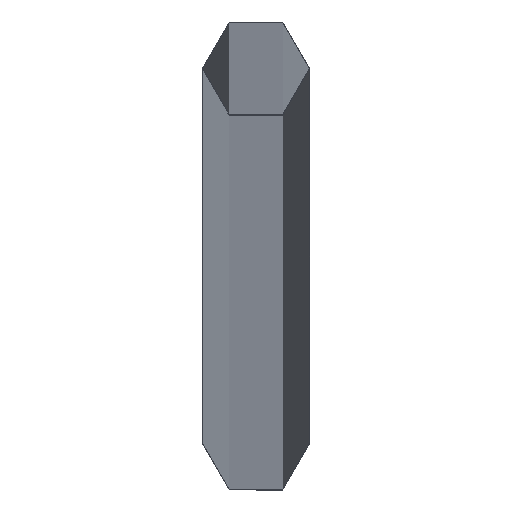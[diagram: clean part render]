
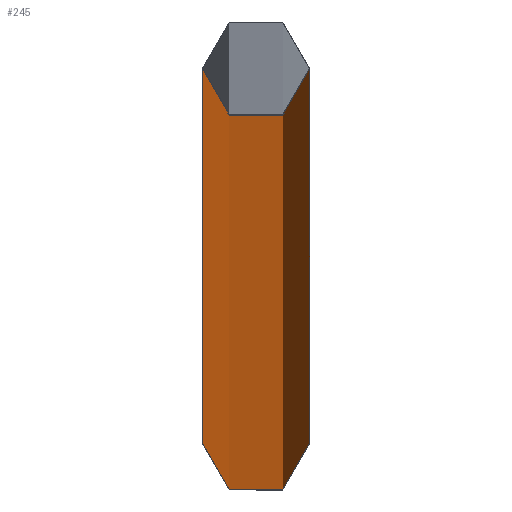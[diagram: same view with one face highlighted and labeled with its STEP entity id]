
A CAD part, top view. The second image highlights one B-rep face of the part: STEP entity #245.
In plain terms, the highlighted cylindrical face has radius 15 mm (diameter 30 mm), a partial arc.
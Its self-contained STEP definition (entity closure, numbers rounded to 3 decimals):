
#1 = EDGE_CURVE ( 'NONE', #83, #104, #195, .T. ) ;
#7 = DIRECTION ( 'NONE',  ( 0., 0., 1. ) ) ;
#17 = VERTEX_POINT ( 'NONE', #227 ) ;
#25 = CARTESIAN_POINT ( 'NONE',  ( 15., 0., 60000. ) ) ;
#28 = DIRECTION ( 'NONE',  ( 0., 0., -1. ) ) ;
#47 = CARTESIAN_POINT ( 'NONE',  ( -15., 0., 60000. ) ) ;
#49 = DIRECTION ( 'NONE',  ( -1., 0., 0. ) ) ;
#51 = DIRECTION ( 'NONE',  ( 1., 0., 0. ) ) ;
#53 = LINE ( 'NONE', #47, #80 ) ;
#64 = ORIENTED_EDGE ( 'NONE', *, *, #171, .T. ) ;
#66 = CARTESIAN_POINT ( 'NONE',  ( 0., 0., 60000. ) ) ;
#80 = VECTOR ( 'NONE', #183, 1000. ) ;
#83 = VERTEX_POINT ( 'NONE', #159 ) ;
#94 = EDGE_CURVE ( 'NONE', #104, #204, #236, .T. ) ;
#98 = DIRECTION ( 'NONE',  ( 0., 0., -1. ) ) ;
#101 = ORIENTED_EDGE ( 'NONE', *, *, #135, .T. ) ;
#102 = DIRECTION ( 'NONE',  ( 1., 0., 0. ) ) ;
#104 = VERTEX_POINT ( 'NONE', #223 ) ;
#113 = ORIENTED_EDGE ( 'NONE', *, *, #94, .F. ) ;
#124 = AXIS2_PLACEMENT_3D ( 'NONE', #160, #7, #102 ) ;
#135 = EDGE_CURVE ( 'NONE', #17, #204, #224, .T. ) ;
#136 = CYLINDRICAL_SURFACE ( 'NONE', #216, 15. ) ;
#153 = EDGE_LOOP ( 'NONE', ( #113, #219, #64, #101 ) ) ;
#154 = AXIS2_PLACEMENT_3D ( 'NONE', #233, #185, #51 ) ;
#159 = CARTESIAN_POINT ( 'NONE',  ( -15., 0., 60000. ) ) ;
#160 = CARTESIAN_POINT ( 'NONE',  ( 0., 0., 60000. ) ) ;
#171 = EDGE_CURVE ( 'NONE', #83, #17, #53, .T. ) ;
#172 = VECTOR ( 'NONE', #98, 1000. ) ;
#176 = FACE_OUTER_BOUND ( 'NONE', #153, .T. ) ;
#183 = DIRECTION ( 'NONE',  ( 0., 0., -1. ) ) ;
#185 = DIRECTION ( 'NONE',  ( 0., 0., 1. ) ) ;
#195 = CIRCLE ( 'NONE', #124, 15. ) ;
#204 = VERTEX_POINT ( 'NONE', #244 ) ;
#216 = AXIS2_PLACEMENT_3D ( 'NONE', #66, #28, #49 ) ;
#219 = ORIENTED_EDGE ( 'NONE', *, *, #1, .F. ) ;
#223 = CARTESIAN_POINT ( 'NONE',  ( 15., 0., 60000. ) ) ;
#224 = CIRCLE ( 'NONE', #154, 15. ) ;
#227 = CARTESIAN_POINT ( 'NONE',  ( -15., 0., 0. ) ) ;
#233 = CARTESIAN_POINT ( 'NONE',  ( 0., 0., 0. ) ) ;
#236 = LINE ( 'NONE', #25, #172 ) ;
#244 = CARTESIAN_POINT ( 'NONE',  ( 15., 0., 0. ) ) ;
#245 = ADVANCED_FACE ( 'NONE', ( #176 ), #136, .T. ) ;
